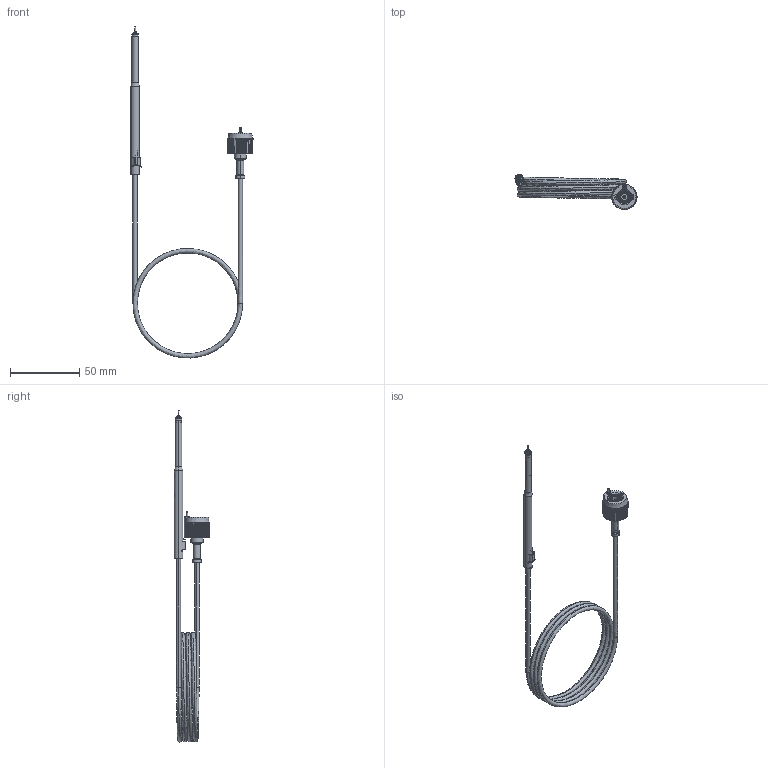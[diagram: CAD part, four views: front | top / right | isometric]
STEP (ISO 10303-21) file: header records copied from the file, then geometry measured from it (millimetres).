
FILE_DESCRIPTION((''),'2;1');
FILE_NAME('P6109B_ASSEMBLY_ASM','2025-04-23T11:48:00',('mthomps2'),(''),'CREO PARAMETRIC BY PTC INC, 2022284','CREO PARAMETRIC BY PTC INC, 2022284','');
FILE_SCHEMA(('CONFIG_CONTROL_DESIGN','SHAPE_APPEARANCE_LAYERS_GROUPS'));
Length unit declared in the file: inch
Products named in the file (15): 174258300; 131372800; BERG_B2412-1; 131517900_INSULATOR; BERG_S193-1_ROLLED; 205017400; 131201500; 131518000_ASM; 174369500_ASM; 344044900; 679387400_ASM; 204200501; 342111000; 131499700; P6109B_ASSEMBLY_ASM
Assembly tree (14 placements, depth 4):
  P6109B_ASSEMBLY_ASM
    174369500_ASM
      174258300
      131372800
      131518000_ASM
        BERG_B2412-1
        131517900_INSULATOR
        BERG_S193-1_ROLLED
        205017400
        131201500
    679387400_ASM
      344044900
    204200501
    342111000
    131499700
Bounding box: 88.43 x 25.56 x 240.57 mm (x, y, z)
Volume: 11979.5 mm3; surface area: 19824.3 mm2
Topology: 11 solids, 11 shells, 570 faces, 1477 edges, 944 vertices
Faces by surface type: plane 241, cylinder 172, cone 90, torus 43, extrusion 12, bspline 10, sphere 2
Entity records: 24591 total; most frequent: CARTESIAN_POINT 6821, DIRECTION 3005, ORIENTED_EDGE 2946, EDGE_CURVE 1473, AXIS2_PLACEMENT_3D 1191, PRESENTATION_STYLE_ASSIGNMENT 1072, STYLED_ITEM 1072, CURVE_STYLE 1067
